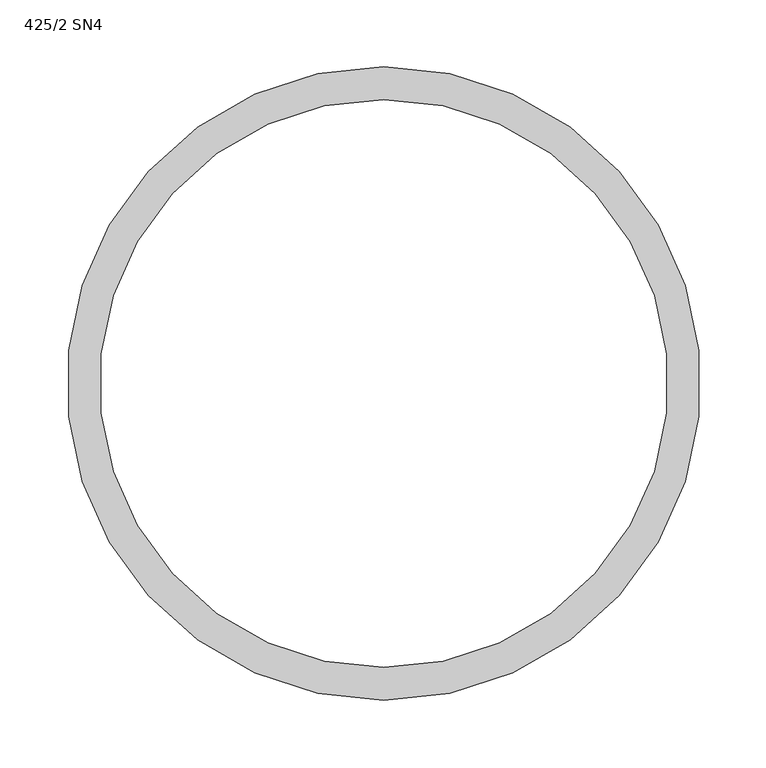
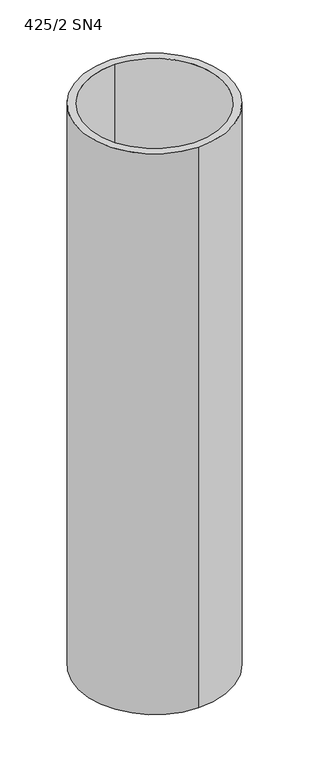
"""IFC4 building model written with IfcOpenShell, lengths in millimetres: valve geometry, Pipelife - Studnia PRO - Rura trzonowa 425 : 425/2 SN4."""

from ifc_helpers import new_model, si_unit, point, origin, origin_with_axes, origin_2d, place, context, project, spatial, circle_curve, trimmed, segment, composite_curve, outline, extrude, source, transform, mapped, element, save


def valve_425_2_sn4_35a93310(model_context):
    return source(origin(), model_context, "Body", "SweptSolid", [
        extrude(outline(composite_curve([segment(trimmed(circle_curve(origin_2d(), 237.0), [point((0.0, 237.0))], [point((0.0, -237.0))], False, "CARTESIAN"), True, "CONTINUOUS"), segment(trimmed(circle_curve(origin_2d(), 237.0), [point((0.0, -237.0))], [point((0.0, 237.0))], False, "CARTESIAN"), True, "CONTINUOUS")], self_intersect=False), holes=[composite_curve([segment(trimmed(circle_curve(origin_2d(), 212.5), [point((0.0, 212.5))], [point((0.0, -212.5))], True, "CARTESIAN"), True, "CONTINUOUS"), segment(trimmed(circle_curve(origin_2d(), 212.5), [point((0.0, -212.5))], [point((0.0, 212.5))], True, "CARTESIAN"), True, "CONTINUOUS")], self_intersect=False)]), origin_with_axes(), (0.0, 0.0, 1.0), 1850.0),
    ])


if __name__ == "__main__":
    model = new_model("IFC4")
    model_context = context("Model", 3, world=origin())
    ifc_project = project(units=[si_unit("LENGTHUNIT", "METRE", prefix="MILLI")], contexts=[model_context])
    site = spatial("IfcSite", under=ifc_project)
    building = spatial("IfcBuilding", under=site)
    placement = place(None, origin())
    valve_425_2_sn4_shape = valve_425_2_sn4_35a93310(model_context)
    element("IfcValve", 1, ObjectType="Pipelife - Studnia PRO - Rura trzonowa 425 : 425/2 SN4", at=placement, inside=building, context=model_context, shape_type="MappedRepresentation", body=[
        mapped(valve_425_2_sn4_shape, transform((0.0, 0.0, 0.0), x_axis=(1.0, 0.0, 0.0), y_axis=(0.0, 1.0, 0.0), z_axis=(0.0, 0.0, 1.0))),
    ])
    save(model, "model.ifc")
